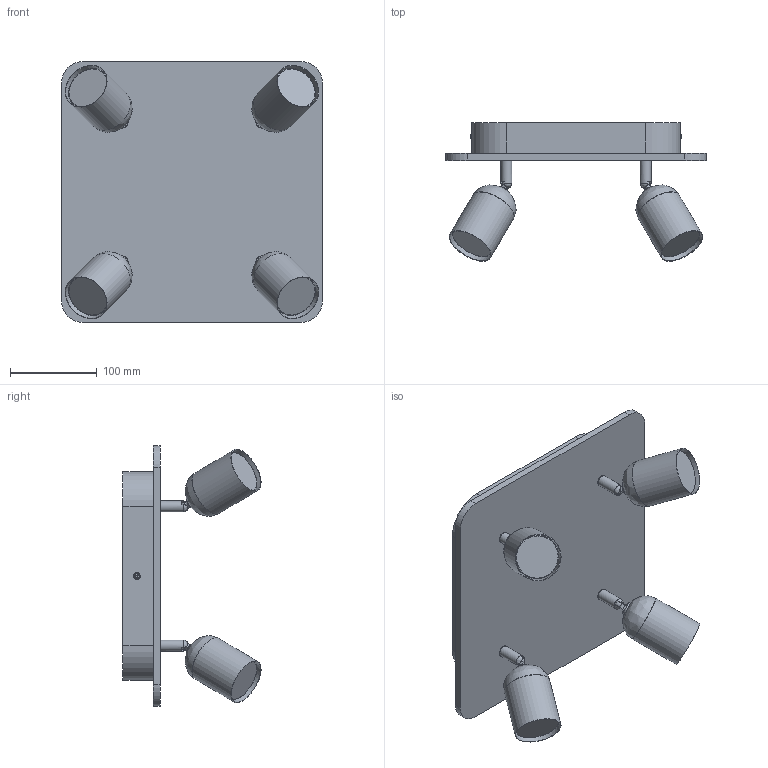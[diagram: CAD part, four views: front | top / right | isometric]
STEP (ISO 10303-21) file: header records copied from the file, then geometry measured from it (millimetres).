
FILE_DESCRIPTION(/* description */ (''),/* implementation_level */ '2;1');
FILE_NAME(/* name */ 'C:/Users/kubaw/OneDrive/Pulpit/3D/JAKUB_WIECZORKOWSKI_MAJ_PACZKA/OK/3293_TOP WOOD.step',/* time_stamp */ '2021-06-19T10:50:04+02:00',/* author */ (''),/* organization */ (''),/* preprocessor_version */ 'ST-DEVELOPER v18.1',/* originating_system */ 'Autodesk Translation Framework v10.9.0.1377',/* authorisation */ '');
FILE_SCHEMA (('AUTOMOTIVE_DESIGN { 1 0 10303 214 3 1 1 }'));
Length unit declared in the file: millimetre
Products named in the file (7): 3293_TOP WOOD; KLOSZ_TOP WOOD; KLOSZ_TOP WOOD v2(Mirror); KLOSZ_TOP WOOD v2(Mirror) (1); KLOSZ_TOP WOOD v2(Mirror)(Mirror); ŚRUBA_TOP WOOD; ŚRUBA_TOP WOOD v2(Mirror)
Assembly tree (6 placements, depth 2):
  3293_TOP WOOD
    KLOSZ_TOP WOOD
    KLOSZ_TOP WOOD v2(Mirror)
    KLOSZ_TOP WOOD v2(Mirror) (1)
    KLOSZ_TOP WOOD v2(Mirror)(Mirror)
    ŚRUBA_TOP WOOD
    ŚRUBA_TOP WOOD v2(Mirror)
Bounding box: 300 x 158.9 x 300 mm (x, y, z)
Volume: 2844677.8 mm3; surface area: 477727.2 mm2
Topology: 34 solids, 34 shells, 220 faces, 464 edges, 312 vertices
Faces by surface type: plane 140, cylinder 42, bspline 22, torus 8, sphere 4, cone 4
Full cylindrical faces by diameter (mm): 8 x2, 12.6 x4, 12.87 x4, 53.1 x4, 54 x4
Entity records: 6856 total; most frequent: CARTESIAN_POINT 1893, DIRECTION 1016, ORIENTED_EDGE 912, EDGE_CURVE 456, AXIS2_PLACEMENT_3D 389, VERTEX_POINT 312, LINE 238, VECTOR 238
